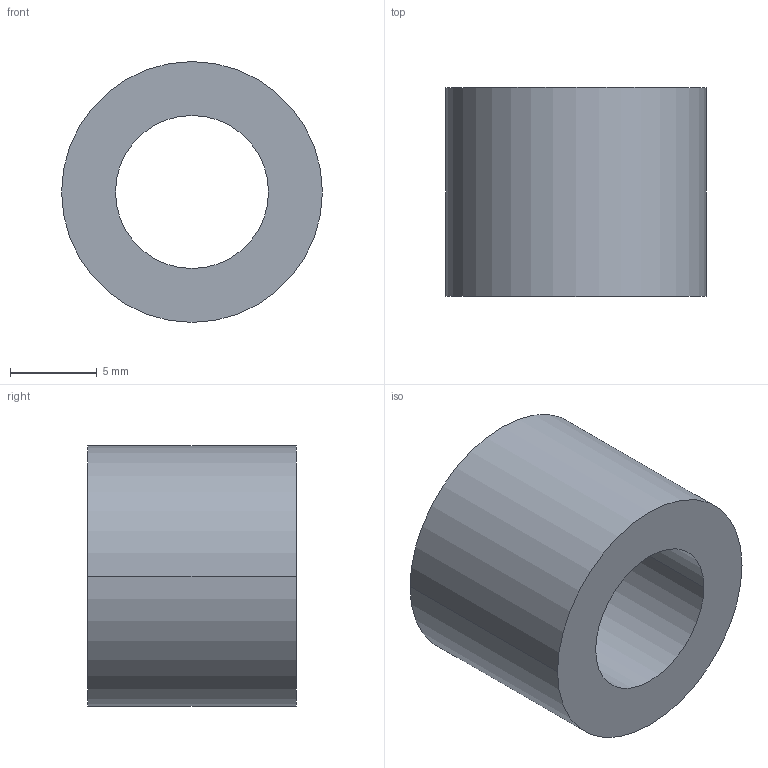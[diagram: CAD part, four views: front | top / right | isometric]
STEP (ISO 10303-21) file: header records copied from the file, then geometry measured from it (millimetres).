
FILE_DESCRIPTION (( 'STEP AP203' ), '1' );
FILE_NAME ('30800.WPP15E8.8.step', '2019-01-23T22:31:11', ( '' ), ( '' ), 'SwSTEP 2.0', 'SolidWorks 2017', '' );
FILE_SCHEMA (( 'CONFIG_CONTROL_DESIGN' ));
Length unit declared in the file: millimetre
Products named in the file (1): 30800.WPP15E8.8
Bounding box: 15 x 12 x 15 mm (x, y, z)
Volume: 1364.6 mm3; surface area: 1107.1 mm2
Topology: 1 solids, 1 shells, 8 faces, 16 edges, 10 vertices
Faces by surface type: cylinder 4, torus 2, plane 2
Entity records: 297 total; most frequent: DIRECTION 46, CARTESIAN_POINT 35, ORIENTED_EDGE 32, AXIS2_PLACEMENT_3D 21, EDGE_CURVE 16, CIRCLE 12, EDGE_LOOP 10, VERTEX_POINT 10
